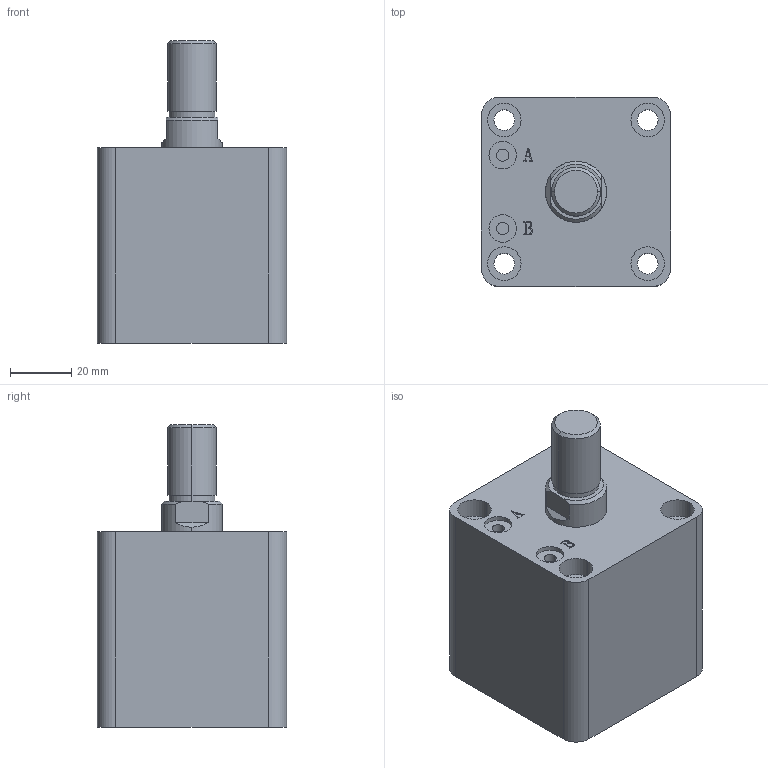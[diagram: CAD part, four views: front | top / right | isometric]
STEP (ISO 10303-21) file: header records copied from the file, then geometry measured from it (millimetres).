
FILE_DESCRIPTION (( 'STEP AP203' ), '1' );
FILE_NAME ('HTB-SDMA32-10W.STEP', '2019-10-07T11:38:10', ( '微软用户' ), ( '微软中国' ), 'SwSTEP 2.0', 'SolidWorks 2012', '' );
FILE_SCHEMA (( 'CONFIG_CONTROL_DESIGN' ));
Length unit declared in the file: millimetre
Products named in the file (3): HTB-SDMA32-10W; HTB-SDMA32-10W活塞杆; HTB-SDMA32-10掛极
Assembly tree (2 placements, depth 2):
  HTB-SDMA32-10W
    HTB-SDMA32-10掛极
    HTB-SDMA32-10W活塞杆
Bounding box: 62 x 62 x 99 mm (x, y, z)
Volume: 234223.2 mm3; surface area: 42016.6 mm2
Topology: 2 solids, 2 shells, 141 faces, 337 edges, 222 vertices
Faces by surface type: plane 67, cylinder 48, bspline 16, torus 6, cone 4
Entity records: 5176 total; most frequent: CARTESIAN_POINT 1593, ORIENTED_EDGE 674, DIRECTION 669, EDGE_CURVE 337, AXIS2_PLACEMENT_3D 242, VERTEX_POINT 222, VECTOR 185, LINE 185
